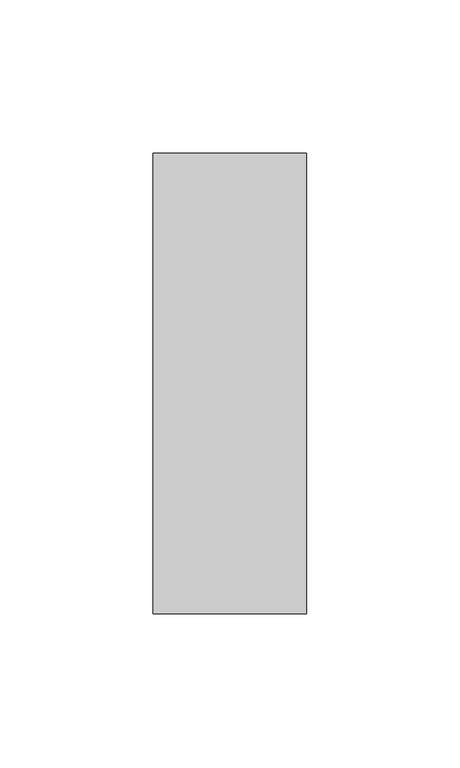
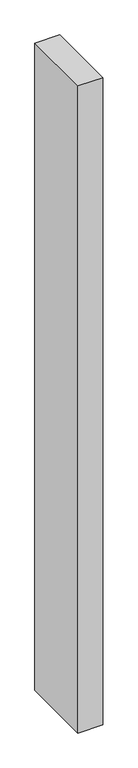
"""IFC4 building model written with IfcOpenShell, lengths in millimetres: member geometry, Прямоугольный импост : 50х150мм."""

from ifc_helpers import new_model, si_unit, frame, origin, place, context, project, spatial, polyline, outline, extrude, source, transform, mapped, element, save


def member_bdea3084(model_context):
    return source(origin(), model_context, "Body", "SweptSolid", [
        extrude(outline(polyline([(25.0, 75.0), (25.0, -75.0), (-25.0, -75.0), (-25.0, 75.0), (25.0, 75.0)])), frame((0.0, 0.0, -1380.0), z_axis=(0.0, 0.0, 1.0), x_axis=(1.0, 0.0, 0.0)), (0.0, 0.0, 1.0), 1380.0),
    ])


if __name__ == "__main__":
    model = new_model("IFC4")
    model_context = context("Model", 3, world=origin())
    ifc_project = project(units=[si_unit("LENGTHUNIT", "METRE", prefix="MILLI")], contexts=[model_context])
    site = spatial("IfcSite", under=ifc_project)
    building = spatial("IfcBuilding", under=site)
    placement = place(None, origin())
    member_shape = member_bdea3084(model_context)
    element("IfcMember", 1, ObjectType="Прямоугольный импост : 50х150мм", at=placement, inside=building, context=model_context, shape_type="MappedRepresentation", body=[
        mapped(member_shape, transform((0.0, 0.0, 0.0), x_axis=(1.0, 0.0, 0.0), y_axis=(0.0, 1.0, 0.0), z_axis=(0.0, 0.0, 1.0))),
    ])
    save(model, "model.ifc")
